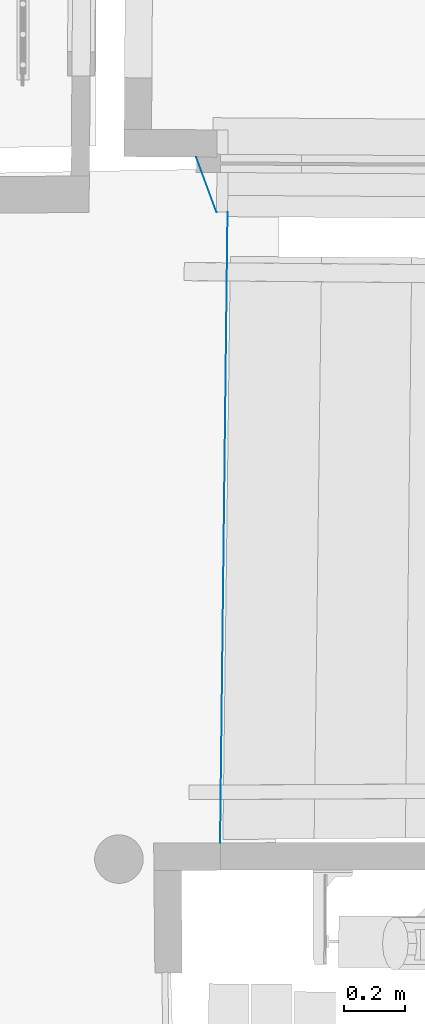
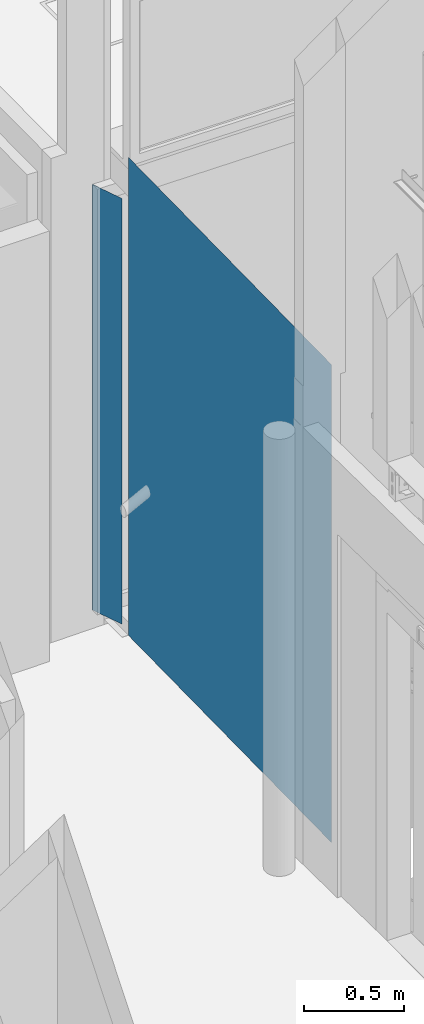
# One storey, part 99 of 133: 1 wall.
"""IFC2X3 building model written with IfcOpenShell, lengths in centimetres."""

from ifc_helpers import new_model, entity, si_unit, converted_unit, direction, frame, origin, origin_with_axes, place, context, subcontext, project, spatial, faceted_brep, material, layer, layer_set, layer_usage, type_object, element, save


model = new_model("IFC2X3")

# Units and contexts
model_context = context("Model", 3, precision=0.0001, world=origin(), true_north=direction((0.225632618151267, 0.974212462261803, 0.0)))
body_context = subcontext(model_context, "Body", "Model", "MODEL_VIEW")
ifc_project = project(units=[si_unit("LENGTHUNIT", "METRE", prefix="CENTI"), si_unit("AREAUNIT", "SQUARE_METRE", prefix="CENTI"), si_unit("VOLUMEUNIT", "CUBIC_METRE", prefix="CENTI"), converted_unit("PLANEANGLEUNIT", "DEGREE", entity("IfcRatioMeasure", 0.0174532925), si_unit("PLANEANGLEUNIT", "RADIAN"), dimensions=[0, 0, 0, 0, 0, 0, 0])], contexts=[model_context])

# Site, building, storey
site_placement = place(None, origin_with_axes())
site = spatial("IfcSite", under=ifc_project, at=site_placement, Name="Default Site", CompositionType="ELEMENT")
building_placement = place(site_placement, origin_with_axes())
building = spatial("IfcBuilding", under=site, at=building_placement, Name="Default Building", CompositionType="ELEMENT")
storey_placement = place(building_placement, frame((0.0, 0.0, -291.400371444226), z_axis=(0.0, 0.0, 1.0), x_axis=(1.0, 0.0, 0.0)))
storey = spatial("IfcBuildingStorey", under=building, at=storey_placement, Name="Rez-de-Jardin", CompositionType="ELEMENT", Elevation=-291.400371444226)

# Wall
ifc_material = material(Name="<aucun>")
ifc_layer = layer(ifc_material, 0.0101999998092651)
ifc_layer_set = layer_set([ifc_layer], Name="default")
ifc_layer_usage = layer_usage(ifc_layer_set, "AXIS2", "POSITIVE", -0.0051)
wall_type = type_object("IfcWallType", Name="default 0.101999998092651", PredefinedType="NOTDEFINED", material=ifc_layer_set)
wall_placement = place(storey_placement, frame((1118.75256812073, -431.128061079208, 0.0), z_axis=(0.0, 0.0, 1.0), x_axis=(0.0117694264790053, 0.999930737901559, 0.0)))
element("IfcWall", 1, at=wall_placement, inside=storey, type_object=wall_type, material=ifc_layer_usage, Name="Enveloppe fantôme 778370", context=body_context, shape_type="Brep", body=[
    faceted_brep([(207.803468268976, 2.30591208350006e-05, 291.413221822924), (207.803468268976, 2.30591208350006e-05, 284.000000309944), (207.803468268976, 2.30591208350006e-05, 267.50000114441), (207.803468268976, 2.30591208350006e-05, 8.00000275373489), (207.803468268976, 2.30591208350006e-05, 1.03831294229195e-05), (0.503324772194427, 2.29676202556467e-05, 1.03831294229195e-05), (0.503324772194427, 2.29676202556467e-05, 262.400372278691), (0.503324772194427, 2.29676202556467e-05, 289.400371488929), (0.503324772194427, 2.29676202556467e-05, 291.413221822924), (0.503324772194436, 4.26350847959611e-06, 291.413221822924), (0.503324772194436, 4.26350847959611e-06, 289.400371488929), (0.503324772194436, 4.26350847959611e-06, 262.400372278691), (0.503324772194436, 4.26350847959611e-06, 1.03831294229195e-05), (207.803468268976, 4.35500905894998e-06, 1.03831294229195e-05), (207.803468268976, 4.35500905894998e-06, 8.00000275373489), (207.803468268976, 4.35500905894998e-06, 267.50000114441), (207.803468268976, 4.35500905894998e-06, 284.000000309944), (207.803468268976, 4.35500905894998e-06, 291.413221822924), (207.78434116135, 3.64270466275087, 28.6989792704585), (207.78434116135, 3.64270466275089, 8.00000275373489), (225.748540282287, 10.511959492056, 8.00000275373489), (225.748540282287, 10.511959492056, 28.6989792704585), (207.78434116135, 3.64270466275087, 28.9926394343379), (225.748540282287, 10.511959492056, 28.9926394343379), (207.78434116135, 3.64270466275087, 31.6963299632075), (225.748540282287, 10.511959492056, 31.6963299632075), (207.78434116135, 3.64270466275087, 32.0000037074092), (225.748540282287, 10.511959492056, 32.0000037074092), (207.78434116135, 3.64270466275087, 43.6999901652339), (207.78434116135, 3.64270466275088, 32.0000037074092), (225.748540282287, 10.511959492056, 43.6999901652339), (207.78434116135, 3.64270466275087, 64.9999960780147), (207.78434116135, 3.64270466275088, 43.6999901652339), (225.748540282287, 10.511959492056, 64.9999960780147), (207.78434116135, 3.64270466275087, 66.999994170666), (225.748540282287, 10.511959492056, 66.999994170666), (207.78434116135, 3.64270466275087, 74.997197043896), (225.748540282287, 10.511959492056, 74.997197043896), (207.78434116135, 3.64270466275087, 80.0000056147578), (207.78434116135, 3.64270466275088, 74.997197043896), (225.748540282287, 10.511959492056, 80.0000056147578), (207.78434116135, 3.64270466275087, 82.0000037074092), (225.748540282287, 10.511959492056, 82.0000037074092), (207.78434116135, 3.64270466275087, 82.7960833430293), (225.748540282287, 10.511959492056, 82.7960833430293), (207.78434116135, 3.64270466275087, 105.000005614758), (207.78434116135, 3.64270466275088, 82.7960833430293), (225.748540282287, 10.511959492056, 105.000005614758), (207.78434116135, 3.64270466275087, 106.000004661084), (225.748540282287, 10.511959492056, 106.000004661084), (207.78434116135, 3.64270466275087, 114.499996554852), (207.78434116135, 3.64270466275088, 106.000004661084), (225.748540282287, 10.511959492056, 114.499996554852), (207.78434116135, 3.64270466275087, 116.400371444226), (225.748540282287, 10.511959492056, 116.400371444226), (207.78434116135, 3.64270466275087, 145.111750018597), (207.78434116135, 3.64270466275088, 116.400371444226), (225.748540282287, 10.511959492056, 145.111750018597), (207.78434116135, 3.64270466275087, 149.9999984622), (207.78434116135, 3.64270466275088, 145.111750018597), (225.748540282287, 10.511959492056, 149.9999984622), (207.78434116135, 3.64270466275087, 154.700003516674), (225.748540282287, 10.511959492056, 154.700003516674), (207.78434116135, 3.64270466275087, 155.700002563), (225.748540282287, 10.511959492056, 155.700002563), (207.78434116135, 3.64270466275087, 156.40036906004), (225.748540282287, 10.511959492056, 156.40036906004), (207.78434116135, 3.64270466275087, 157.900367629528), (225.748540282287, 10.511959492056, 157.900367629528), (207.78434116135, 3.64270466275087, 161.400376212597), (225.748540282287, 10.511959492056, 161.400376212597), (207.78434116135, 3.64270466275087, 170.400367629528), (207.78434116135, 3.64270466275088, 161.400376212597), (225.748540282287, 10.511959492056, 170.400367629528), (207.78434116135, 3.64270466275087, 187.697838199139), (207.78434116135, 3.64270466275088, 170.400367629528), (225.748540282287, 10.511959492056, 187.697838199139), (207.78434116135, 3.64270466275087, 191.400371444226), (225.748540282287, 10.511959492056, 191.400371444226), (207.78434116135, 3.64270466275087, 199.095092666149), (207.78434116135, 3.64270466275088, 191.400371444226), (225.748540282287, 10.511959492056, 199.095092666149), (207.78434116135, 3.64270466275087, 201.400373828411), (225.748540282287, 10.511959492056, 201.400373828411), (207.78434116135, 3.64270466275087, 221.502886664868), (207.78434116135, 3.64270466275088, 201.400373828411), (225.748540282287, 10.511959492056, 221.502886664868), (207.78434116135, 3.64270466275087, 222.087471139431), (225.748540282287, 10.511959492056, 222.087471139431), (207.78434116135, 3.64270466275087, 223.599998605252), (225.748540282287, 10.511959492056, 223.599998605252), (207.78434116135, 3.64270466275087, 230.2401288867), (225.748540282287, 10.511959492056, 230.2401288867), (207.78434116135, 3.64270466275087, 231.902567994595), (225.748540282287, 10.511959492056, 231.902567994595), (207.78434116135, 3.64270466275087, 249.811892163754), (207.78434116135, 3.64270466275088, 231.902567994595), (225.748540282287, 10.511959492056, 249.811892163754), (207.78434116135, 3.64270466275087, 254.304297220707), (207.78434116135, 3.64270466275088, 249.811892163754), (225.748540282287, 10.511959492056, 254.304297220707), (207.78434116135, 3.64270466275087, 255.10944570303), (225.748540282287, 10.511959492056, 255.10944570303), (207.78434116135, 3.64270466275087, 258.410401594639), (225.748540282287, 10.511959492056, 258.410401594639), (207.78434116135, 3.64270466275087, 260.400371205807), (225.748540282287, 10.511959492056, 260.400371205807), (207.78434116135, 3.64270466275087, 262.400372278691), (225.748540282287, 10.511959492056, 262.400372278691), (207.78434116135, 3.64270466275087, 266.400371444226), (225.748540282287, 10.511959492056, 266.400371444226), (225.748517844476, 10.5120181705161, 266.400371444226), (225.748517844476, 10.5120181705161, 267.50000114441), (207.78431872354, 3.64276334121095, 267.50000114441), (207.78431872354, 3.64276334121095, 266.400371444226)], [[[0, 1, 2, 3, 4, 5, 6, 7, 8]], [[9, 10, 11, 12, 13, 14, 15, 16, 17]], [[18, 19, 20, 21]], [[22, 18, 21, 23]], [[24, 22, 23, 25]], [[26, 24, 25, 27]], [[28, 29, 27, 30]], [[31, 32, 30, 33]], [[34, 31, 33, 35]], [[36, 34, 35, 37]], [[38, 39, 37, 40]], [[41, 38, 40, 42]], [[43, 41, 42, 44]], [[45, 46, 44, 47]], [[48, 45, 47, 49]], [[50, 51, 49, 52]], [[53, 50, 52, 54]], [[55, 56, 54, 57]], [[58, 59, 57, 60]], [[61, 58, 60, 62]], [[63, 61, 62, 64]], [[65, 63, 64, 66]], [[67, 65, 66, 68]], [[69, 67, 68, 70]], [[71, 72, 70, 73]], [[74, 75, 73, 76]], [[77, 74, 76, 78]], [[79, 80, 78, 81]], [[82, 79, 81, 83]], [[84, 85, 83, 86]], [[87, 84, 86, 88]], [[89, 87, 88, 90]], [[91, 89, 90, 92]], [[93, 91, 92, 94]], [[95, 96, 94, 97]], [[98, 99, 97, 100]], [[101, 98, 100, 102]], [[103, 101, 102, 104]], [[105, 103, 104, 106]], [[107, 105, 106, 108]], [[109, 107, 108, 110]], [[111, 112, 113, 114]]]),
])

save(model, "model.ifc")
